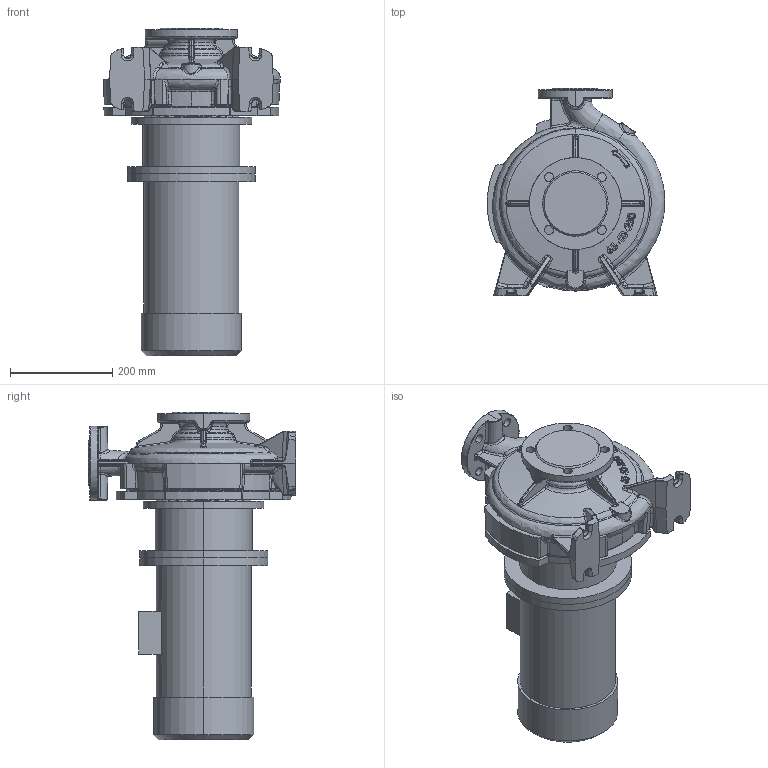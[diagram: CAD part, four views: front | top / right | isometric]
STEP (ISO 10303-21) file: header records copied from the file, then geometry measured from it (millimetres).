
FILE_DESCRIPTION (( 'STEP AP214' ), '1' );
FILE_NAME ('KRM 65-40-250-4-3.STEP', '2026-04-24T12:22:46', ( '' ), ( '' ), 'SwSTEP 2.0', 'SolidWorks 2016', '' );
FILE_SCHEMA (( 'AUTOMOTIVE_DESIGN' ));
Length unit declared in the file: millimetre
Products named in the file (1): KRM 65-40-250-4-3
Bounding box: 346.53 x 405.5 x 641.3 mm (x, y, z)
Volume: 24973082.1 mm3; surface area: 1212914.2 mm2
Topology: 4 solids, 4 shells, 1149 faces, 2787 edges, 1648 vertices
Faces by surface type: bspline 533, cylinder 210, plane 198, torus 96, cone 82, sphere 30
Entity records: 83882 total; most frequent: CARTESIAN_POINT 48755, ORIENTED_EDGE 5520, DIRECTION 3595, EDGE_CURVE 2760, VERTEX_POINT 1648, AXIS2_PLACEMENT_3D 1527, EDGE_LOOP 1194, UNCERTAINTY_MEASURE_WITH_UNIT 1155
